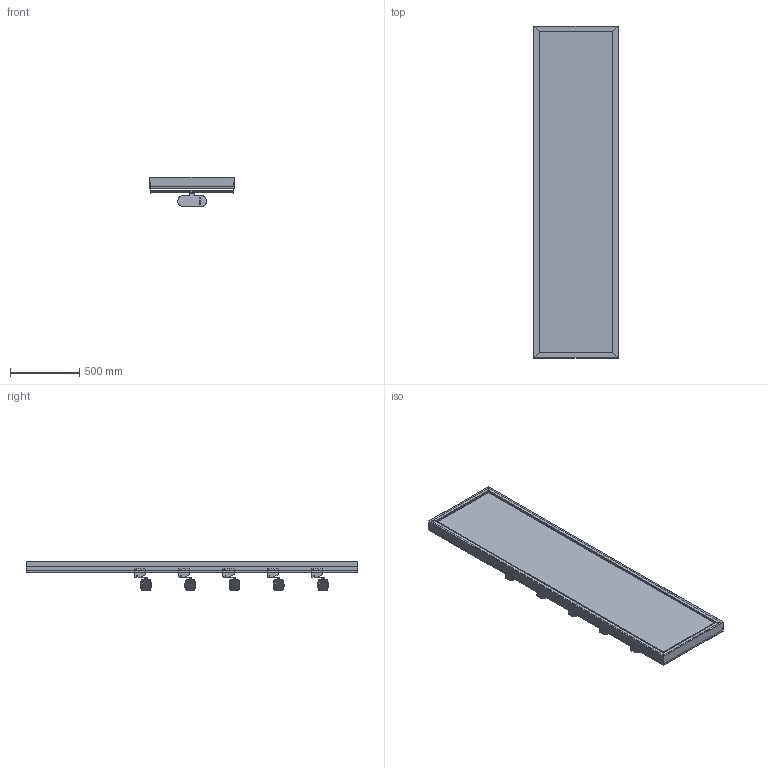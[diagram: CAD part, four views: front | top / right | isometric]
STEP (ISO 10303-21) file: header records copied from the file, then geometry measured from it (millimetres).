
FILE_DESCRIPTION (( 'STEP AP214' ), '1' );
FILE_NAME ('Slotted UpBright? 610mm Golf Shoe Display Wall (Angled).STEP', '2026-03-31T04:38:27', ( '' ), ( '' ), 'SwSTEP 2.0', 'SolidWorks 2025', '' );
FILE_SCHEMA (( 'AUTOMOTIVE_DESIGN' ));
Length unit declared in the file: millimetre
Products named in the file (6): 0001-31-102; 0001-31-SA23 - 610W Rear Support Bar; 0001-31-103; 373-01-GA01; 0001-31-GA01 - 610W Slotted Upright; Slotted UpBright® 610mm Golf Shoe Display Wall (Angled)
Assembly tree (14 placements, depth 3):
  Slotted UpBright® 610mm Golf Shoe Display Wall (Angled)
    0001-31-GA01 - 610W Slotted Upright
    0001-31-SA23 - 610W Rear Support Bar  x5
      0001-31-102
      0001-31-103
    373-01-GA01  x5
Bounding box: 609.75 x 2400 x 212.4 mm (x, y, z)
Volume: 7287226.9 mm3; surface area: 8636499.6 mm2
Topology: 26 solids, 26 shells, 915 faces, 2756 edges, 1824 vertices
Faces by surface type: plane 727, cylinder 178, bspline 10
Entity records: 17196 total; most frequent: CARTESIAN_POINT 3453, ORIENTED_EDGE 3086, DIRECTION 2433, EDGE_CURVE 1543, VECTOR 1409, LINE 1409, VERTEX_POINT 1026, EDGE_LOOP 549
